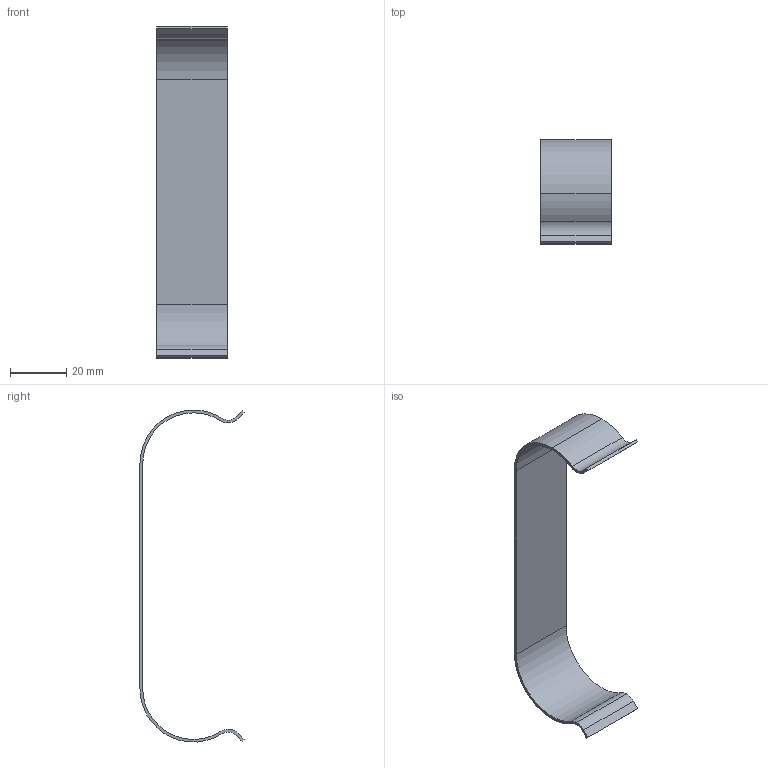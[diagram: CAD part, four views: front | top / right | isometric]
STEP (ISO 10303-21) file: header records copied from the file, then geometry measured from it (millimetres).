
FILE_DESCRIPTION (( 'STEP AP214' ), '1' );
FILE_NAME ('JB-56040.step', '2024-01-17T00:59:02', ( 'catia' ), ( 'HP Inc.' ), 'SwSTEP 2.0', 'SolidWorks 2021', '' );
FILE_SCHEMA (( 'AUTOMOTIVE_DESIGN' ));
Length unit declared in the file: millimetre
Products named in the file (1): JB-56040
Bounding box: 25 x 37 x 117.95 mm (x, y, z)
Volume: 4431.2 mm3; surface area: 9266.9 mm2
Topology: 1 solids, 1 shells, 22 faces, 60 edges, 40 vertices
Faces by surface type: cylinder 12, plane 10
Entity records: 742 total; most frequent: DIRECTION 130, CARTESIAN_POINT 123, ORIENTED_EDGE 120, EDGE_CURVE 60, AXIS2_PLACEMENT_3D 47, VERTEX_POINT 40, LINE 36, VECTOR 36
